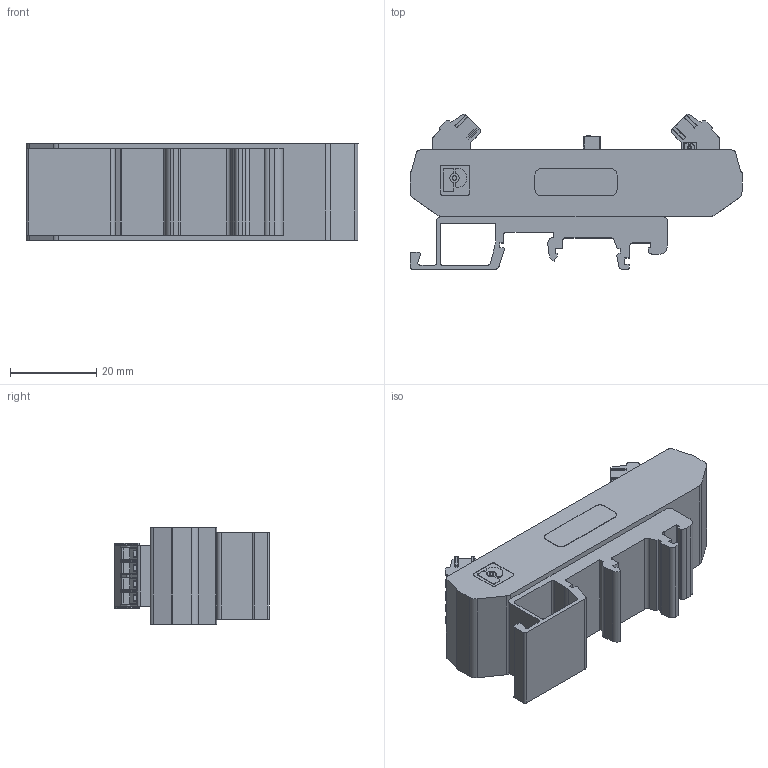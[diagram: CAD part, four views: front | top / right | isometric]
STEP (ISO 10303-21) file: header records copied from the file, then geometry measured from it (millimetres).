
FILE_DESCRIPTION(/* description */ ('','CAx-IF Rec.Pracs.---Representation and Presentation of Product Manufacturing Information (PMI)---3.8---2014-02-18'),/* implementation_level */ '2;1');
FILE_NAME(/* name */ 'S:\Projects\RSD-LDR-SC-5V-100MA, AX020140, Proj_21044\MECHANICAL\rev A\AX020140.stp',/* time_stamp */ '2022-12-09T10:47:37-05:00',/* author */ ('tfisher'),/* organization */ (''),/* preprocessor_version */ 'ST-DEVELOPER v16.13',/* originating_system */ 'Autodesk Inventor 2018',/* authorisation */ '');
FILE_SCHEMA (('AP242_MANAGED_MODEL_BASED_3D_ENGINEERING_MIM_LF { 1 0 10303 442 1 1 4 }'));
Products named in the file (1): FG-AX020140_Shrinkwrap_1
Bounding box: 77 x 35.94 x 22.7 mm (x, y, z)
Volume: 25888.8 mm3; surface area: 18071 mm2
Topology: 1 solids, 4 shells, 5221 faces, 14851 edges, 9796 vertices
Faces by surface type: plane 4393, cylinder 703, bspline 65, cone 44, torus 16
Full cylindrical faces by diameter (mm): 0.457 x2, 0.508 x53, 0.9 x8, 1.016 x21, 1.058 x2, 1.27 x8, 1.3 x8, 2.032 x7, 2.9 x8
Entity records: 172594 total; most frequent: CARTESIAN_POINT 30872, ORIENTED_EDGE 29290, DIRECTION 26414, EDGE_CURVE 14645, LINE 12916, VECTOR 12916, VERTEX_POINT 9719, AXIS2_PLACEMENT_3D 6753
